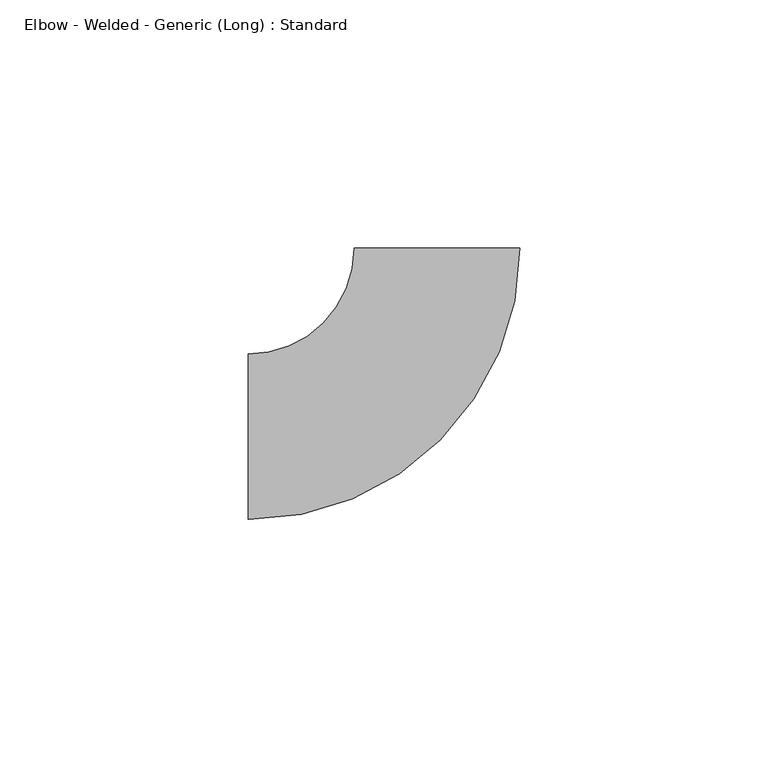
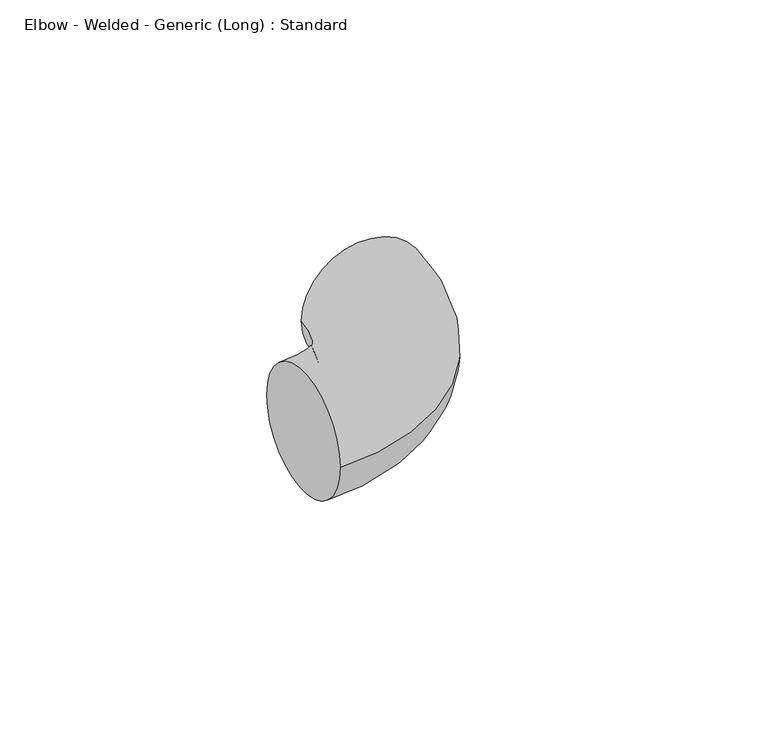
"""IFC4 building model written with IfcOpenShell, lengths in millimetres: pipe fitting geometry, Elbow - Welded - Generic (Long) : Standard."""

import ifcopenshell
import ifcopenshell.guid

model = None  # the IFC model being written
_history = None  # IfcOwnerHistory: only IFC2X3 demands one
_inside = {}  # id of a spatial element -> (the spatial element, [elements in it])
_under = {}  # id of a project, library or spatial element -> (it, [spatial elements below it])
_declared = {}  # id of a project -> (the project, [libraries it declares])
_typed = {}  # id of a type object -> (the type object, [elements of that type])
_made_of = {}  # id of a material, layer set ... -> (it, [elements and type objects made of it])


def new_model(schema):
    """Start an empty IFC model of exactly this schema.

    Asked for "IFC4X3", IfcOpenShell would pick the latest addendum, in which some entities
    have other attributes; the version numbers below select the first issue.
    IFC2X3 requires an IfcOwnerHistory on every rooted entity: one is made here for all.
    """
    global model, _history
    if schema == "IFC4X3":
        model = ifcopenshell.file(schema_version=(4, 3, 0, 0))
    else:
        model = ifcopenshell.file(schema=schema)
    _inside.clear()
    _under.clear()
    _declared.clear()
    _typed.clear()
    _made_of.clear()
    _history = None
    if model.schema == "IFC2X3":
        org = make("IfcOrganization", Name="unknown")
        user = make(
            "IfcPersonAndOrganization",
            ThePerson=make("IfcPerson", FamilyName="unknown"),
            TheOrganization=org,
        )
        app = make(
            "IfcApplication",
            ApplicationDeveloper=org,
            Version="unknown",
            ApplicationFullName="unknown",
            ApplicationIdentifier="unknown",
        )
        _history = make(
            "IfcOwnerHistory",
            OwningUser=user,
            OwningApplication=app,
            ChangeAction="ADDED",
            CreationDate=0,
        )
    return model


def make(cls, **values):
    """One entity of the class cls with the attributes given. An attribute that is None is left unset."""
    return model.create_entity(
        cls, **{name: value for name, value in values.items() if value is not None}
    )


def rooted(cls, **values):
    """An entity with a GlobalId (a new one), such as an element, a storey or a relation."""
    return make(cls, GlobalId=ifcopenshell.guid.new(), OwnerHistory=_history, **values)


def si_unit(unit_type, name, prefix=None):
    """IfcSIUnit, for example si_unit("LENGTHUNIT", "METRE", prefix="MILLI")."""
    return make("IfcSIUnit", UnitType=unit_type, Prefix=prefix, Name=name)


def assignment(units):
    """IfcUnitAssignment: the units of a project."""
    return None if units is None else make("IfcUnitAssignment", Units=units)


def point(xyz):
    """IfcCartesianPoint."""
    return None if xyz is None else make("IfcCartesianPoint", Coordinates=xyz)


def direction(xyz):
    """IfcDirection."""
    return None if xyz is None else make("IfcDirection", DirectionRatios=xyz)


def frame(location, z_axis=None, x_axis=None):
    """IfcAxis2Placement3D, a coordinate frame: its origin and axes. An axis left out is left unset."""
    return make(
        "IfcAxis2Placement3D",
        Location=point(location),
        Axis=direction(z_axis),
        RefDirection=direction(x_axis),
    )


def origin():
    """The frame at (0, 0, 0) with its axes left unset."""
    return frame((0.0, 0.0, 0.0))


def place(relative_to, where):
    """IfcLocalPlacement: puts the frame where relative to a parent placement (None: the world)."""
    return make(
        "IfcLocalPlacement", PlacementRelTo=relative_to, RelativePlacement=where
    )


def context(
    kind, dimensions, precision=None, world=None, true_north=None, identifier=None
):
    """IfcGeometricRepresentationContext, for example the 3D "Model" context."""
    return make(
        "IfcGeometricRepresentationContext",
        ContextIdentifier=identifier,
        ContextType=kind,
        CoordinateSpaceDimension=dimensions,
        Precision=precision,
        WorldCoordinateSystem=world,
        TrueNorth=true_north,
    )


def project(units=None, contexts=None):
    """IfcProject with its units and contexts."""
    return rooted(
        "IfcProject",
        Name="project",
        RepresentationContexts=contexts,
        UnitsInContext=assignment(units),
    )


def spatial(cls, under=None, at=None, **own):
    """A site, building, storey or space (cls), placed at a placement, below another one or the project."""
    s = rooted(cls, ObjectPlacement=at, **own)
    if under is not None:
        _under.setdefault(under.id(), (under, []))[1].append(s)
    return s


def circle_curve(where, radius):
    """IfcCircle in the frame where."""
    return make("IfcCircle", Position=where, Radius=radius)


def ellipse_curve(where, semi_axis1, semi_axis2):
    """IfcEllipse in the frame where."""
    return make(
        "IfcEllipse", Position=where, SemiAxis1=semi_axis1, SemiAxis2=semi_axis2
    )


def trimmed(basis, trim1, trim2, sense, master):
    """IfcTrimmedCurve: the piece of a basis curve between two trims."""
    return make(
        "IfcTrimmedCurve",
        BasisCurve=basis,
        Trim1=trim1,
        Trim2=trim2,
        SenseAgreement=sense,
        MasterRepresentation=master,
    )


def shape(context_of_items, identifier, shape_type, items):
    """IfcShapeRepresentation: the items that make up one representation, for example the "Body"."""
    return make(
        "IfcShapeRepresentation",
        ContextOfItems=context_of_items,
        RepresentationIdentifier=identifier,
        RepresentationType=shape_type,
        Items=items,
    )


def source(mapping_origin, context_of_items, identifier, shape_type, items):
    """IfcRepresentationMap: a shape defined once, which mapped items show again and again."""
    return make(
        "IfcRepresentationMap",
        MappingOrigin=mapping_origin,
        MappedRepresentation=shape(context_of_items, identifier, shape_type, items),
    )


def transform(
    local_origin,
    x_axis=None,
    y_axis=None,
    z_axis=None,
    scale=None,
    scale2=None,
    scale3=None,
    uniform=True,
):
    """IfcCartesianTransformationOperator3D, or its non-uniform kind. x_axis, y_axis, z_axis: its Axis1, 2, 3."""
    if uniform:
        return make(
            "IfcCartesianTransformationOperator3D",
            Axis1=direction(x_axis),
            Axis2=direction(y_axis),
            LocalOrigin=point(local_origin),
            Scale=scale,
            Axis3=direction(z_axis),
        )
    return make(
        "IfcCartesianTransformationOperator3DnonUniform",
        Axis1=direction(x_axis),
        Axis2=direction(y_axis),
        LocalOrigin=point(local_origin),
        Scale=scale,
        Axis3=direction(z_axis),
        Scale2=scale2,
        Scale3=scale3,
    )


def mapped(mapping_source, mapping_target):
    """IfcMappedItem: shows the shape of a source again, moved by a transform."""
    return make(
        "IfcMappedItem", MappingSource=mapping_source, MappingTarget=mapping_target
    )


def made_of(thing, what):
    """Note that an element or type object is made of a material, layer set ...; save() writes the relation."""
    if what is not None:
        _made_of.setdefault(what.id(), (what, []))[1].append(thing)
    return thing


def element(
    cls,
    number,
    at=None,
    inside=None,
    cuts=None,
    type_object=None,
    material=None,
    context=None,
    identifier="Body",
    shape_type=None,
    held_by="IfcProductDefinitionShape",
    body=None,
    shapes=None,
    **own,
):
    """One element of the class cls, such as IfcWall. Its Tag is "e" and its number.

    at: its placement. inside: the storey or other place that contains it. cuts: it is an
    opening in that element (IfcRelVoidsElement). A single representation is given by context,
    identifier, shape_type and body (its items); several are given by shapes. held_by: the class
    of the entity that holds the representations. save() writes the other relations.
    """
    e = rooted(cls, Tag="e%d" % number, ObjectPlacement=at, **own)
    if body is not None:
        shapes = [shape(context, identifier, shape_type, body)]
    if shapes is not None:
        e.Representation = make(held_by, Representations=shapes)
    if inside is not None:
        _inside.setdefault(inside.id(), (inside, []))[1].append(e)
    if cuts is not None:
        rooted(
            "IfcRelVoidsElement", RelatingBuildingElement=cuts, RelatedOpeningElement=e
        )
    if type_object is not None:
        _typed.setdefault(type_object.id(), (type_object, []))[1].append(e)
    return made_of(e, material)


def aggregate(whole, parts):
    """IfcRelAggregates: a whole, such as a stair, and the parts it consists of."""
    return rooted("IfcRelAggregates", RelatingObject=whole, RelatedObjects=parts)


def save(model, path):
    """Write the relations noted so far, then the file.

    IfcRelAggregates (storeys below a building ...), IfcRelContainedInSpatialStructure (elements
    in a storey), IfcRelDefinesByType, IfcRelAssociatesMaterial and IfcRelDeclares: one each for
    every whole, place, type object, material and project.
    """
    for whole, parts in _under.values():
        aggregate(whole, parts)
    for where, things in _inside.values():
        rooted(
            "IfcRelContainedInSpatialStructure",
            RelatedElements=things,
            RelatingStructure=where,
        )
    for kind, things in _typed.values():
        rooted("IfcRelDefinesByType", RelatedObjects=things, RelatingType=kind)
    for what, things in _made_of.values():
        rooted("IfcRelAssociatesMaterial", RelatedObjects=things, RelatingMaterial=what)
    for by, libraries in _declared.values():
        rooted("IfcRelDeclares", RelatingContext=by, RelatedDefinitions=libraries)
    model.write(path)


def plane_surface(at):
    """IfcPlane: the flat surface through the origin of the frame at, square to its z axis."""
    return make("IfcPlane", Position=at)


def revolved_surface(curve, axis_point, axis_direction):
    """IfcSurfaceOfRevolution: the curve turned about the line through axis_point along axis_direction."""
    return make(
        "IfcSurfaceOfRevolution",
        SweptCurve=make("IfcArbitraryOpenProfileDef", ProfileType="CURVE", Curve=curve),
        AxisPosition=make("IfcAxis1Placement", Location=point(axis_point), Axis=direction(axis_direction)),
    )


def advanced_brep(points, edges, surfaces, faces):
    """IfcAdvancedBrep: a solid bounded by faces that lie on surfaces and meet in shared edges.

    An edge is (start, end): straight between two places in points (the first is 0);
    or (start, end, curve); or (start, end, curve, False) where it runs against its curve.
    A face is (place in surfaces, loops), or (place, loops, False) where it looks against
    its surface's normal. A loop lists edges by number (the first is 1), with a minus sign
    where the edge is run from its end to its start. The first loop is the outer one.
    """
    corners = [point(p) for p in points]
    vertices = [make("IfcVertexPoint", VertexGeometry=c) for c in corners]
    made = []
    for start, end, *more in edges:
        made.append(
            make(
                "IfcEdgeCurve",
                EdgeStart=vertices[start],
                EdgeEnd=vertices[end],
                EdgeGeometry=more[0] if more else make("IfcPolyline", Points=[corners[start], corners[end]]),
                SameSense=more[1] if len(more) > 1 else True,
            )
        )
    hull = []
    for where, loops, *sense in faces:
        bounds = []
        for j, loop in enumerate(loops):
            ring = [make("IfcOrientedEdge", EdgeElement=made[abs(k) - 1], Orientation=k > 0) for k in loop]
            bounds.append(
                make(
                    "IfcFaceOuterBound" if j == 0 else "IfcFaceBound",
                    Bound=make("IfcEdgeLoop", EdgeList=ring),
                    Orientation=True,
                )
            )
        hull.append(make("IfcAdvancedFace", Bounds=bounds, FaceSurface=surfaces[where], SameSense=sense[0] if sense else True))
    return make("IfcAdvancedBrep", Outer=make("IfcClosedShell", CfsFaces=hull))


def elbow_welded_generic_long_standard_14c7f347(model_context):
    return source(origin(), model_context, "Body", "AdvancedBrep", [
        advanced_brep(
        [(-38.1, -16.66875, 0.0), (-38.1, 16.66875, 0.0), (16.6405769, 38.1123133, 0.0), (-16.696914, 38.0876659, 0.0)],
        [
            (0, 1, circle_curve(frame((-38.1, 0.0, 0.0), z_axis=(-1.0, 0.0, 0.0), x_axis=(0.0, 1.0, 0.0)), 16.66875)),
            (1, 0, circle_curve(frame((-38.1, 0.0, 0.0), z_axis=(-1.0, 0.0, 0.0), x_axis=(0.0, 1.0, 0.0)), 16.66875)),
            (2, 3, circle_curve(frame((-0.0281685, 38.0999896, 0.0), z_axis=(-0.0007393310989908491, 0.9999997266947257, 0.0), x_axis=(-0.9999997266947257, -0.0007393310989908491, 0.0)), 16.66875)),
            (3, 2, circle_curve(frame((-0.0281685, 38.0999896, 0.0), z_axis=(-0.0007393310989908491, 0.9999997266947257, 0.0), x_axis=(-0.9999997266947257, -0.0007393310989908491, 0.0)), 16.66875)),
            (3, 1, circle_curve(frame((-38.1, 38.0718419, 0.0), z_axis=(0.0, 0.0, -1.0), x_axis=(0.0, -1.0, 0.0)), 21.4030919)),
            (0, 2, circle_curve(frame((-38.1, 38.0718419, 0.0), z_axis=(0.0, 0.0, 1.0), x_axis=(0.0, -1.0, 0.0)), 54.7405919)),
        ],
        [
            plane_surface(frame((-38.1, 0.0, 0.0), z_axis=(-1.0, 0.0, 0.0), x_axis=(0.0, 0.0, 1.0))),
            plane_surface(frame((-0.0281685, 38.0999896, 0.0), z_axis=(-0.0007393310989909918, 0.9999997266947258, 0.0), x_axis=(0.0, 0.0, 1.0))),
            revolved_surface(trimmed(ellipse_curve(frame((-38.1, 0.0, 0.0), z_axis=(-1.0, 0.0, 0.0), x_axis=(0.0, 1.0, 0.0)), 16.66875, 16.66875), [point((-38.1, -16.66875, 0.0))], [point((-38.1, 16.66875, 0.0))], True, "CARTESIAN"), (-38.1, 38.0718419, 0.0), (0.0, 0.0, 1.0)),
            revolved_surface(trimmed(ellipse_curve(frame((-38.1, 0.0, 0.0), z_axis=(-1.0, 0.0, 0.0), x_axis=(0.0, 1.0, 0.0)), 16.66875, 16.66875), [point((-38.1, 16.66875, 0.0))], [point((-38.1, -16.66875, 0.0))], True, "CARTESIAN"), (-38.1, 38.0718419, 0.0), (0.0, 0.0, 1.0)),
        ],
        [
            (0, [[1, 2]]),
            (1, [[3, 4]]),
            (2, [[5, -1, 6, -4]]),
            (3, [[-6, -2, -5, -3]]),
        ],
    ),
    ])


if __name__ == "__main__":
    model = new_model("IFC4")
    model_context = context("Model", 3, world=origin())
    ifc_project = project(units=[si_unit("LENGTHUNIT", "METRE", prefix="MILLI")], contexts=[model_context])
    site = spatial("IfcSite", under=ifc_project)
    building = spatial("IfcBuilding", under=site)
    placement = place(None, origin())
    elbow_welded_generic_long_standard_shape = elbow_welded_generic_long_standard_14c7f347(model_context)
    element("IfcPipeFitting", 1, ObjectType="Elbow - Welded - Generic (Long) : Standard", at=placement, inside=building, context=model_context, shape_type="MappedRepresentation", body=[
        mapped(elbow_welded_generic_long_standard_shape, transform((0.0, 0.0, 0.0), x_axis=(1.0, 0.0, 0.0), y_axis=(0.0, 1.0, 0.0), z_axis=(0.0, 0.0, 1.0))),
    ])
    save(model, "model.ifc")
